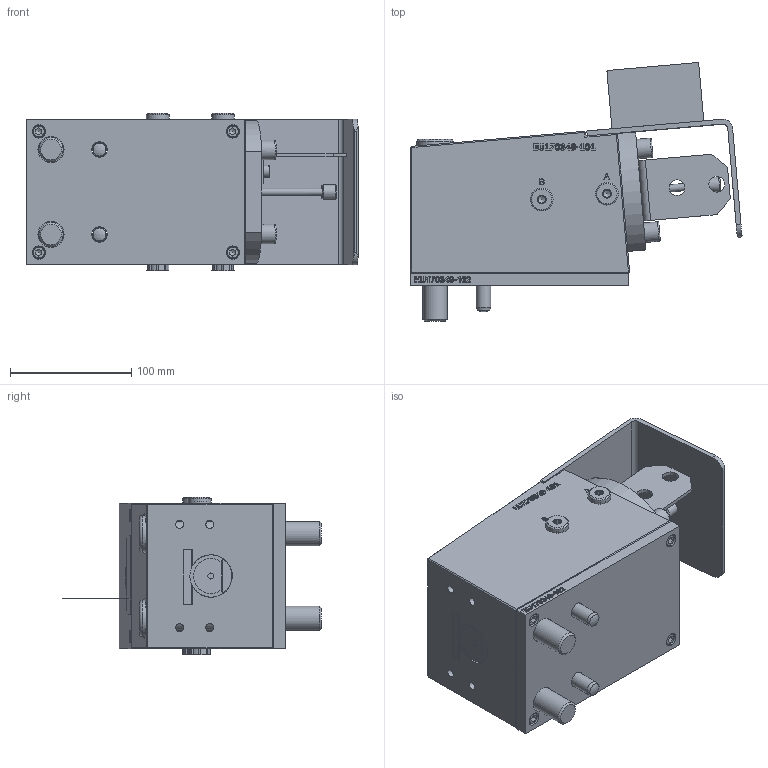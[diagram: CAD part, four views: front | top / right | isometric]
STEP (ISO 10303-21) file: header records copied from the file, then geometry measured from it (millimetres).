
FILE_DESCRIPTION(/* description */ (''),/* implementation_level */ '2;1');
FILE_NAME(/* name */ 'Z:\Standard products\1. QMC Clamping Systems\3. MOD - Mold clamp\MOD510\MOD510-500-RH-200-P-600(M20).stp',/* time_stamp */ '2017-04-25T08:38:35+02:00',/* author */ ('breep'),/* organization */ (''),/* preprocessor_version */ 'ST-DEVELOPER v16.1',/* originating_system */ 'Autodesk Inventor 2016',/* authorisation */ '');
FILE_SCHEMA (('AUTOMOTIVE_DESIGN { 1 0 10303 214 3 1 1 }'));
Products named in the file (1): Part1
Bounding box: 273.88 x 213.53 x 130.2 mm (x, y, z)
Volume: 2682536.1 mm3; surface area: 330110.5 mm2
Topology: 5 solids, 72 shells, 1837 faces, 4717 edges, 3097 vertices
Faces by surface type: plane 986, bspline 390, cylinder 301, cone 112, torus 44, sphere 4
Full cylindrical faces by diameter (mm): 0.82 x1, 1.04 x1, 2.5 x1, 3 x2, 4 x4, 4.134 x2, 4.917 x8, 4.918 x2, 5 x2, 5.5 x1, 6 x18, 6.02 x1, 6.1 x1, 6.2 x2, 6.4 x2, 6.5 x1, 6.647 x4, 7 x6, 8.376 x4, 8.75 x1, 9 x2, 10 x13, 10.03 x1, 10.8 x2, 11 x8, 11.2 x2, 11.43 x6, 11.6 x2, 12 x3, 12.1 x2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
Entity records: 56816 total; most frequent: CARTESIAN_POINT 14695, ORIENTED_EDGE 8526, DIRECTION 6960, EDGE_CURVE 4262, VERTEX_POINT 2952, LINE 2602, VECTOR 2602, EDGE_LOOP 2342
